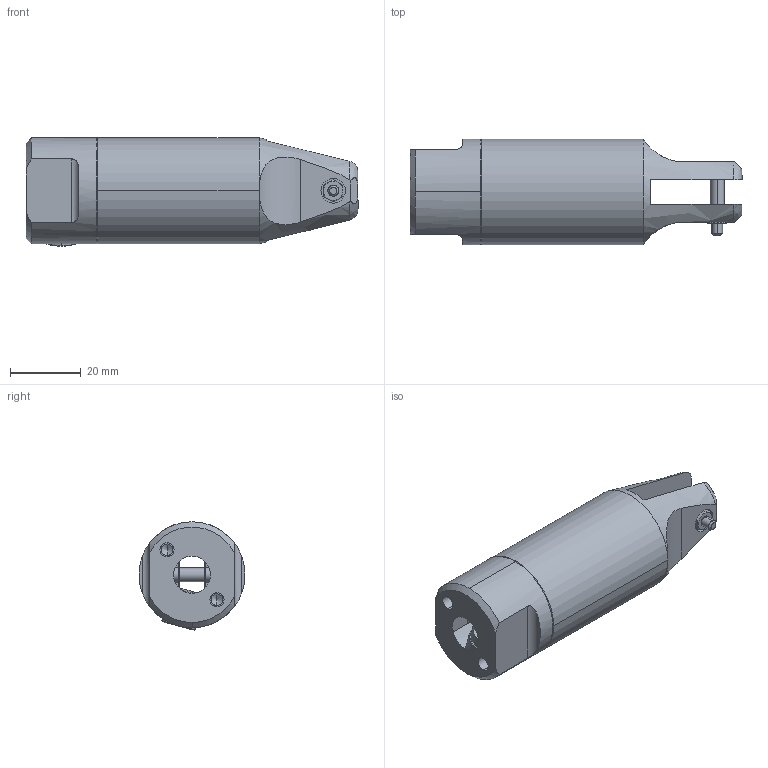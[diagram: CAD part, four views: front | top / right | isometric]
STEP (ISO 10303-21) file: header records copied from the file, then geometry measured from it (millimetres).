
FILE_DESCRIPTION (( 'STEP AP214' ), '1' );
FILE_NAME ('GT-NR5.STEP', '2019-11-28T00:52:46', ( '微软用户' ), ( '微软中国' ), 'SwSTEP 2.0', 'SolidWorks 2016', '' );
FILE_SCHEMA (( 'AUTOMOTIVE_DESIGN' ));
Length unit declared in the file: millimetre
Products named in the file (1): GT-NR5
Bounding box: 94 x 30 x 30.7 mm (x, y, z)
Surface area: 11596.5 mm2 (no closed solid volume)
Topology: 0 solids, 4 shells, 135 faces, 332 edges, 208 vertices
Faces by surface type: plane 57, cylinder 40, cone 35, bspline 3
Entity records: 4711 total; most frequent: CARTESIAN_POINT 1564, DIRECTION 643, ORIENTED_EDGE 630, EDGE_CURVE 326, AXIS2_PLACEMENT_3D 261, VERTEX_POINT 208, EDGE_LOOP 153, FACE_OUTER_BOUND 135
